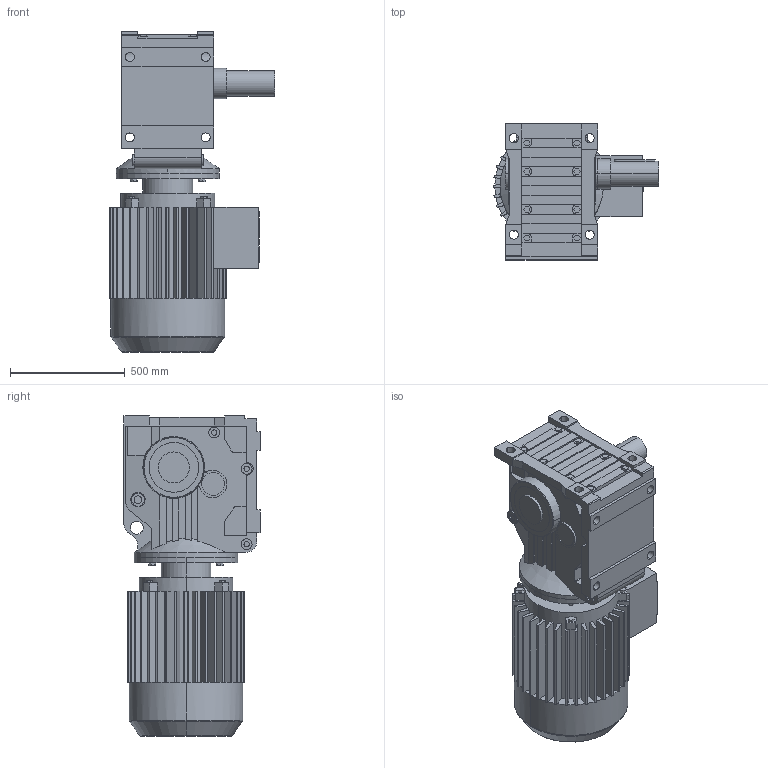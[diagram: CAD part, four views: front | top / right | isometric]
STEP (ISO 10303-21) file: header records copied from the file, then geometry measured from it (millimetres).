
FILE_DESCRIPTION(('Open CASCADE Model'),'2;1');
FILE_NAME('Open CASCADE Shape Model','2021-05-26T15:24:18',('Author'),( 'Open CASCADE'),'Open CASCADE STEP processor 6.3','Open CASCADE 6.3' ,'Unknown');
FILE_SCHEMA(('AUTOMOTIVE_DESIGN_CC2 { 1 2 10303 214 -1 1 5 4 }'));
Length unit declared in the file: millimetre
Products named in the file (4): 1_K127DV250M-A; K37‵157_127.step; 萇儂_450-DV250M-780-965-510-397.step; す瑩妗陑粣K_127.step
Assembly tree (3 placements, depth 2):
  1_K127DV250M-A
    K37‵157_127.step
    萇儂_450-DV250M-780-965-510-397.step
    す瑩妗陑粣K_127.step
Bounding box: 721 x 592 x 1395 mm (x, y, z)
Volume: 237202879.5 mm3; surface area: 5393681.4 mm2
Topology: 3 solids, 3 shells, 834 faces, 2199 edges, 1428 vertices
Faces by surface type: plane 582, cylinder 230, cone 14, torus 8
Entity records: 57486 total; most frequent: CARTESIAN_POINT 15685, DIRECTION 7207, ORIENTED_EDGE 4394, PCURVE 4394, DEFINITIONAL_REPRESENTATION 4394, LINE 3929, VECTOR 3929, EDGE_CURVE 2197
